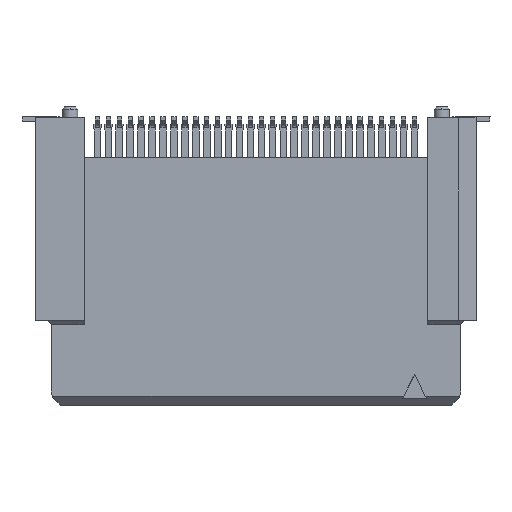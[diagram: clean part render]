
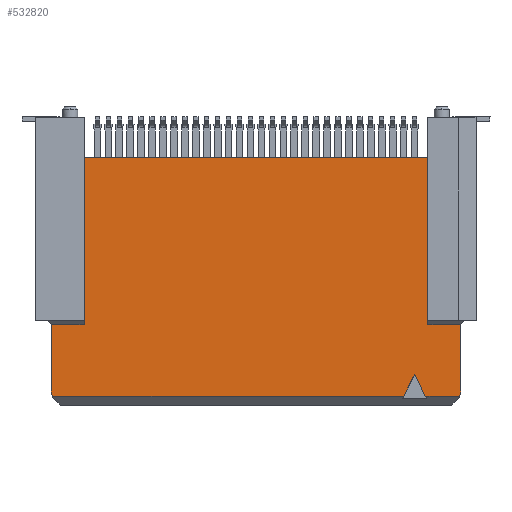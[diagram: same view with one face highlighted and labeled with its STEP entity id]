
A CAD part, front view. The second image highlights one B-rep face of the part: STEP entity #532820.
In plain terms, the highlighted planar face has unit normal (0, -1, 0).
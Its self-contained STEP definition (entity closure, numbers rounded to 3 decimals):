
#14230=CARTESIAN_POINT('',(25.022,1.44,
6.19));
#14240=VERTEX_POINT('',#14230);
#15030=CARTESIAN_POINT('',(24.372,1.44,
6.19));
#15040=DIRECTION('',(-1.,0.,0.));
#15050=VECTOR('',#15040,1.);
#15060=LINE('',#15030,#15050);
#15070=CARTESIAN_POINT('',(23.522,1.44,
6.19));
#15080=VERTEX_POINT('',#15070);
#15090=EDGE_CURVE('',#14240,#15080,#15060,.T.);
#16210=CARTESIAN_POINT('',(22.912,1.44,
3.91));
#16220=VERTEX_POINT('',#16210);
#16250=CARTESIAN_POINT('',(20.49,1.44,
8.755));
#16260=DIRECTION('',(-0.447,0.,
0.894));
#16270=VECTOR('',#16260,1.);
#16280=LINE('',#16250,#16270);
#16290=CARTESIAN_POINT('',(23.412,1.44,
2.91));
#16300=VERTEX_POINT('',#16290);
#16310=EDGE_CURVE('',#16300,#16220,#16280,.T.);
#17160=CARTESIAN_POINT('',(22.412,1.44,
2.91));
#17170=VERTEX_POINT('',#17160);
#17200=CARTESIAN_POINT('',(25.335,1.44,
8.755));
#17210=DIRECTION('',(-0.447,0.,
-0.894));
#17220=VECTOR('',#17210,1.);
#17230=LINE('',#17200,#17220);
#17240=EDGE_CURVE('',#16220,#17170,#17230,.T.);
#17380=CARTESIAN_POINT('',(25.022,1.44,
3.06));
#17390=VERTEX_POINT('',#17380);
#17420=CARTESIAN_POINT('',(25.022,1.44,
10.39));
#17430=DIRECTION('',(0.,0.,
1.));
#17440=VECTOR('',#17430,1.);
#17450=LINE('',#17420,#17440);
#17460=EDGE_CURVE('',#17390,#14240,#17450,.T.);
#17660=CARTESIAN_POINT('',(24.974,1.44,
2.91));
#17670=VERTEX_POINT('',#17660);
#17700=CARTESIAN_POINT('',(27.371,1.44,
10.39));
#17710=DIRECTION('',(-0.305,0.,
-0.952));
#17720=VECTOR('',#17710,1.);
#17730=LINE('',#17700,#17720);
#17740=EDGE_CURVE('',#17390,#17670,#17730,.T.);
#96000=CARTESIAN_POINT('',(23.522,1.44,
13.82));
#96010=VERTEX_POINT('',#96000);
#96040=CARTESIAN_POINT('',(23.185,1.44,
13.82));
#96050=DIRECTION('',(-1.,0.,0.));
#96060=VECTOR('',#96050,1.);
#96070=LINE('',#96040,#96060);
#96080=CARTESIAN_POINT('',(7.802,1.44,
13.82));
#96090=VERTEX_POINT('',#96080);
#96100=EDGE_CURVE('',#96010,#96090,#96070,.T.);
#208280=CARTESIAN_POINT('',(23.522,1.44,
8.755));
#208290=DIRECTION('',(0.,0.,
1.));
#208300=VECTOR('',#208290,1.);
#208310=LINE('',#208280,#208300);
#208320=CARTESIAN_POINT('',(23.522,1.44,
6.39));
#208330=VERTEX_POINT('',#208320);
#208340=EDGE_CURVE('',#15080,#208330,#208310,.T.);
#208360=CARTESIAN_POINT('',(23.522,1.44,
6.39));
#208370=DIRECTION('',(0.,0.,
1.));
#208380=VECTOR('',#208370,1.);
#208390=LINE('',#208360,#208380);
#208400=EDGE_CURVE('',#208330,#96010,#208390,.T.);
#219390=CARTESIAN_POINT('',(-2.348,1.44,
2.91));
#219400=DIRECTION('',(1.,0.,0.));
#219410=VECTOR('',#219400,1.);
#219420=LINE('',#219390,#219410);
#219430=CARTESIAN_POINT('',(23.672,1.44,
2.91));
#219440=VERTEX_POINT('',#219430);
#219450=EDGE_CURVE('',#16300,#219440,#219420,.T.);
#219470=CARTESIAN_POINT('',(16.867,1.44,
2.91));
#219480=DIRECTION('',(-1.,0.,0.));
#219490=VECTOR('',#219480,1.);
#219500=LINE('',#219470,#219490);
#219510=EDGE_CURVE('',#17670,#219440,#219500,.T.);
#219690=CARTESIAN_POINT('',(6.351,1.44,
2.91));
#219700=VERTEX_POINT('',#219690);
#219730=CARTESIAN_POINT('',(14.458,1.44,
2.91));
#219740=DIRECTION('',(1.,0.,0.));
#219750=VECTOR('',#219740,1.);
#219760=LINE('',#219730,#219750);
#219770=CARTESIAN_POINT('',(7.652,1.44,
2.91));
#219780=VERTEX_POINT('',#219770);
#219790=EDGE_CURVE('',#219700,#219780,#219760,.T.);
#219810=CARTESIAN_POINT('',(6.152,1.44,
2.91));
#219820=DIRECTION('',(1.,0.,0.));
#219830=VECTOR('',#219820,1.);
#219840=LINE('',#219810,#219830);
#219850=EDGE_CURVE('',#219780,#17170,#219840,.T.);
#517160=CARTESIAN_POINT('',(7.802,1.44,
11.39));
#517170=DIRECTION('',(0.,0.,
-1.));
#517180=VECTOR('',#517170,1.);
#517190=LINE('',#517160,#517180);
#517200=CARTESIAN_POINT('',(7.802,1.44,
6.39));
#517210=VERTEX_POINT('',#517200);
#517220=EDGE_CURVE('',#96090,#517210,#517190,.T.);
#517240=CARTESIAN_POINT('',(7.802,1.44,
8.755));
#517250=DIRECTION('',(0.,0.,
1.));
#517260=VECTOR('',#517250,1.);
#517270=LINE('',#517240,#517260);
#517280=CARTESIAN_POINT('',(7.802,1.44,
6.19));
#517290=VERTEX_POINT('',#517280);
#517300=EDGE_CURVE('',#517290,#517210,#517270,.T.);
#532390=CARTESIAN_POINT('',(2.172,1.44,
2.91));
#532400=DIRECTION('',(0.,1.,
0.));
#532410=DIRECTION('',(0.,0.,
1.));
#532420=AXIS2_PLACEMENT_3D('',#532390,#532400,#532410);
#532430=PLANE('',#532420);
#532440=ORIENTED_EDGE('',*,*,#208400,.T.);
#532450=ORIENTED_EDGE('',*,*,#208340,.T.);
#532460=ORIENTED_EDGE('',*,*,#15090,.T.);
#532470=ORIENTED_EDGE('',*,*,#17460,.T.);
#532480=ORIENTED_EDGE('',*,*,#17740,.F.);
#532490=ORIENTED_EDGE('',*,*,#219510,.F.);
#532500=ORIENTED_EDGE('',*,*,#219450,.T.);
#532510=ORIENTED_EDGE('',*,*,#16310,.F.);
#532520=ORIENTED_EDGE('',*,*,#17240,.F.);
#532530=ORIENTED_EDGE('',*,*,#219850,.T.);
#532540=ORIENTED_EDGE('',*,*,#219790,.T.);
#532550=CARTESIAN_POINT('',(3.954,1.44,
10.39));
#532560=DIRECTION('',(0.305,0.,
-0.952));
#532570=VECTOR('',#532560,1.);
#532580=LINE('',#532550,#532570);
#532590=CARTESIAN_POINT('',(6.302,1.44,
3.06));
#532600=VERTEX_POINT('',#532590);
#532610=EDGE_CURVE('',#532600,#219700,#532580,.T.);
#532620=ORIENTED_EDGE('',*,*,#532610,.T.);
#532630=CARTESIAN_POINT('',(6.302,1.44,
10.39));
#532640=DIRECTION('',(0.,0.,
1.));
#532650=VECTOR('',#532640,1.);
#532660=LINE('',#532630,#532650);
#532670=CARTESIAN_POINT('',(6.302,1.44,
6.19));
#532680=VERTEX_POINT('',#532670);
#532690=EDGE_CURVE('',#532600,#532680,#532660,.T.);
#532700=ORIENTED_EDGE('',*,*,#532690,.F.);
#532710=CARTESIAN_POINT('',(6.952,1.44,
6.19));
#532720=DIRECTION('',(1.,0.,0.));
#532730=VECTOR('',#532720,1.);
#532740=LINE('',#532710,#532730);
#532750=EDGE_CURVE('',#532680,#517290,#532740,.T.);
#532760=ORIENTED_EDGE('',*,*,#532750,.F.);
#532770=ORIENTED_EDGE('',*,*,#517300,.F.);
#532780=ORIENTED_EDGE('',*,*,#517220,.T.);
#532790=ORIENTED_EDGE('',*,*,#96100,.T.);
#532800=EDGE_LOOP('',(#532790,#532780,#532770,#532760,#532700,#532620,
#532540,#532530,#532520,#532510,#532500,#532490,#532480,#532470,#532460,
#532450,#532440));
#532810=FACE_OUTER_BOUND('',#532800,.T.);
#532820=ADVANCED_FACE('',(#532810),#532430,.F.);
